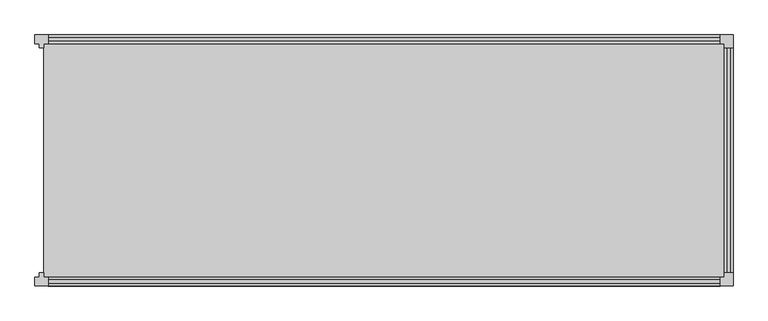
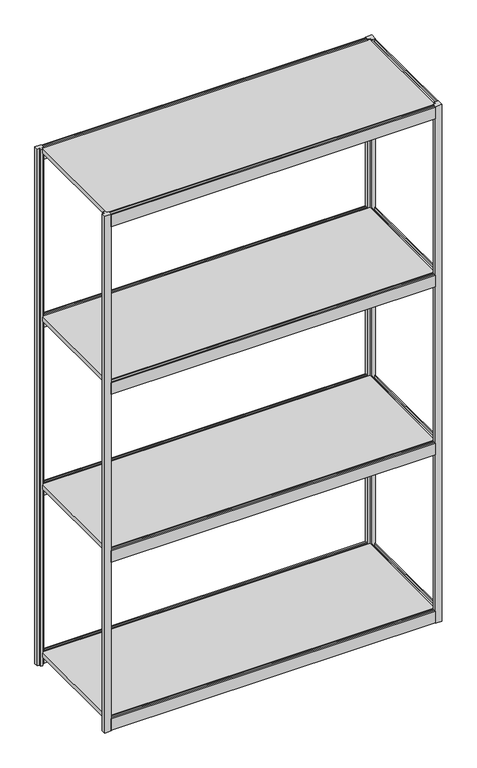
"""IFC4 building model written with IfcOpenShell, lengths in millimetres: furniture geometry, Loft_Wall-Shift-Shelving-Adder : SHIFT-4A-FH."""

import ifcopenshell
import ifcopenshell.guid

model = None  # the IFC model being written
_history = None  # IfcOwnerHistory: only IFC2X3 demands one
_inside = {}  # id of a spatial element -> (the spatial element, [elements in it])
_under = {}  # id of a project, library or spatial element -> (it, [spatial elements below it])
_declared = {}  # id of a project -> (the project, [libraries it declares])
_typed = {}  # id of a type object -> (the type object, [elements of that type])
_made_of = {}  # id of a material, layer set ... -> (it, [elements and type objects made of it])


def new_model(schema):
    """Start an empty IFC model of exactly this schema.

    Asked for "IFC4X3", IfcOpenShell would pick the latest addendum, in which some entities
    have other attributes; the version numbers below select the first issue.
    IFC2X3 requires an IfcOwnerHistory on every rooted entity: one is made here for all.
    """
    global model, _history
    if schema == "IFC4X3":
        model = ifcopenshell.file(schema_version=(4, 3, 0, 0))
    else:
        model = ifcopenshell.file(schema=schema)
    _inside.clear()
    _under.clear()
    _declared.clear()
    _typed.clear()
    _made_of.clear()
    _history = None
    if model.schema == "IFC2X3":
        org = make("IfcOrganization", Name="unknown")
        user = make(
            "IfcPersonAndOrganization",
            ThePerson=make("IfcPerson", FamilyName="unknown"),
            TheOrganization=org,
        )
        app = make(
            "IfcApplication",
            ApplicationDeveloper=org,
            Version="unknown",
            ApplicationFullName="unknown",
            ApplicationIdentifier="unknown",
        )
        _history = make(
            "IfcOwnerHistory",
            OwningUser=user,
            OwningApplication=app,
            ChangeAction="ADDED",
            CreationDate=0,
        )
    return model


def make(cls, **values):
    """One entity of the class cls with the attributes given. An attribute that is None is left unset."""
    return model.create_entity(
        cls, **{name: value for name, value in values.items() if value is not None}
    )


def rooted(cls, **values):
    """An entity with a GlobalId (a new one), such as an element, a storey or a relation."""
    return make(cls, GlobalId=ifcopenshell.guid.new(), OwnerHistory=_history, **values)


def si_unit(unit_type, name, prefix=None):
    """IfcSIUnit, for example si_unit("LENGTHUNIT", "METRE", prefix="MILLI")."""
    return make("IfcSIUnit", UnitType=unit_type, Prefix=prefix, Name=name)


def assignment(units):
    """IfcUnitAssignment: the units of a project."""
    return None if units is None else make("IfcUnitAssignment", Units=units)


def point(xyz):
    """IfcCartesianPoint."""
    return None if xyz is None else make("IfcCartesianPoint", Coordinates=xyz)


def direction(xyz):
    """IfcDirection."""
    return None if xyz is None else make("IfcDirection", DirectionRatios=xyz)


def frame(location, z_axis=None, x_axis=None):
    """IfcAxis2Placement3D, a coordinate frame: its origin and axes. An axis left out is left unset."""
    return make(
        "IfcAxis2Placement3D",
        Location=point(location),
        Axis=direction(z_axis),
        RefDirection=direction(x_axis),
    )


def origin():
    """The frame at (0, 0, 0) with its axes left unset."""
    return frame((0.0, 0.0, 0.0))


def origin_with_axes():
    """The frame at (0, 0, 0) with the z axis (0, 0, 1) and the x axis (1, 0, 0) written out."""
    return frame((0.0, 0.0, 0.0), z_axis=(0.0, 0.0, 1.0), x_axis=(1.0, 0.0, 0.0))


def place(relative_to, where):
    """IfcLocalPlacement: puts the frame where relative to a parent placement (None: the world)."""
    return make(
        "IfcLocalPlacement", PlacementRelTo=relative_to, RelativePlacement=where
    )


def context(
    kind, dimensions, precision=None, world=None, true_north=None, identifier=None
):
    """IfcGeometricRepresentationContext, for example the 3D "Model" context."""
    return make(
        "IfcGeometricRepresentationContext",
        ContextIdentifier=identifier,
        ContextType=kind,
        CoordinateSpaceDimension=dimensions,
        Precision=precision,
        WorldCoordinateSystem=world,
        TrueNorth=true_north,
    )


def project(units=None, contexts=None):
    """IfcProject with its units and contexts."""
    return rooted(
        "IfcProject",
        Name="project",
        RepresentationContexts=contexts,
        UnitsInContext=assignment(units),
    )


def spatial(cls, under=None, at=None, **own):
    """A site, building, storey or space (cls), placed at a placement, below another one or the project."""
    s = rooted(cls, ObjectPlacement=at, **own)
    if under is not None:
        _under.setdefault(under.id(), (under, []))[1].append(s)
    return s


def polyline(points):
    """IfcPolyline through the points."""
    return make("IfcPolyline", Points=[point(p) for p in points])


def outline(outer, holes=None, kind="AREA"):
    """IfcArbitraryClosedProfileDef: a profile drawn as a closed curve; with holes, ...WithVoids."""
    if holes is None:
        return make("IfcArbitraryClosedProfileDef", ProfileType=kind, OuterCurve=outer)
    return make(
        "IfcArbitraryProfileDefWithVoids",
        ProfileType=kind,
        OuterCurve=outer,
        InnerCurves=holes,
    )


def extrude(swept, where, along, depth):
    """IfcExtrudedAreaSolid: the profile swept, set in the frame where, extruded along a direction by depth."""
    return make(
        "IfcExtrudedAreaSolid",
        SweptArea=swept,
        Position=where,
        ExtrudedDirection=direction(along),
        Depth=depth,
    )


def shape(context_of_items, identifier, shape_type, items):
    """IfcShapeRepresentation: the items that make up one representation, for example the "Body"."""
    return make(
        "IfcShapeRepresentation",
        ContextOfItems=context_of_items,
        RepresentationIdentifier=identifier,
        RepresentationType=shape_type,
        Items=items,
    )


def source(mapping_origin, context_of_items, identifier, shape_type, items):
    """IfcRepresentationMap: a shape defined once, which mapped items show again and again."""
    return make(
        "IfcRepresentationMap",
        MappingOrigin=mapping_origin,
        MappedRepresentation=shape(context_of_items, identifier, shape_type, items),
    )


def transform(
    local_origin,
    x_axis=None,
    y_axis=None,
    z_axis=None,
    scale=None,
    scale2=None,
    scale3=None,
    uniform=True,
):
    """IfcCartesianTransformationOperator3D, or its non-uniform kind. x_axis, y_axis, z_axis: its Axis1, 2, 3."""
    if uniform:
        return make(
            "IfcCartesianTransformationOperator3D",
            Axis1=direction(x_axis),
            Axis2=direction(y_axis),
            LocalOrigin=point(local_origin),
            Scale=scale,
            Axis3=direction(z_axis),
        )
    return make(
        "IfcCartesianTransformationOperator3DnonUniform",
        Axis1=direction(x_axis),
        Axis2=direction(y_axis),
        LocalOrigin=point(local_origin),
        Scale=scale,
        Axis3=direction(z_axis),
        Scale2=scale2,
        Scale3=scale3,
    )


def mapped(mapping_source, mapping_target):
    """IfcMappedItem: shows the shape of a source again, moved by a transform."""
    return make(
        "IfcMappedItem", MappingSource=mapping_source, MappingTarget=mapping_target
    )


def made_of(thing, what):
    """Note that an element or type object is made of a material, layer set ...; save() writes the relation."""
    if what is not None:
        _made_of.setdefault(what.id(), (what, []))[1].append(thing)
    return thing


def element(
    cls,
    number,
    at=None,
    inside=None,
    cuts=None,
    type_object=None,
    material=None,
    context=None,
    identifier="Body",
    shape_type=None,
    held_by="IfcProductDefinitionShape",
    body=None,
    shapes=None,
    **own,
):
    """One element of the class cls, such as IfcWall. Its Tag is "e" and its number.

    at: its placement. inside: the storey or other place that contains it. cuts: it is an
    opening in that element (IfcRelVoidsElement). A single representation is given by context,
    identifier, shape_type and body (its items); several are given by shapes. held_by: the class
    of the entity that holds the representations. save() writes the other relations.
    """
    e = rooted(cls, Tag="e%d" % number, ObjectPlacement=at, **own)
    if body is not None:
        shapes = [shape(context, identifier, shape_type, body)]
    if shapes is not None:
        e.Representation = make(held_by, Representations=shapes)
    if inside is not None:
        _inside.setdefault(inside.id(), (inside, []))[1].append(e)
    if cuts is not None:
        rooted(
            "IfcRelVoidsElement", RelatingBuildingElement=cuts, RelatedOpeningElement=e
        )
    if type_object is not None:
        _typed.setdefault(type_object.id(), (type_object, []))[1].append(e)
    return made_of(e, material)


def aggregate(whole, parts):
    """IfcRelAggregates: a whole, such as a stair, and the parts it consists of."""
    return rooted("IfcRelAggregates", RelatingObject=whole, RelatedObjects=parts)


def save(model, path):
    """Write the relations noted so far, then the file.

    IfcRelAggregates (storeys below a building ...), IfcRelContainedInSpatialStructure (elements
    in a storey), IfcRelDefinesByType, IfcRelAssociatesMaterial and IfcRelDeclares: one each for
    every whole, place, type object, material and project.
    """
    for whole, parts in _under.values():
        aggregate(whole, parts)
    for where, things in _inside.values():
        rooted(
            "IfcRelContainedInSpatialStructure",
            RelatedElements=things,
            RelatingStructure=where,
        )
    for kind, things in _typed.values():
        rooted("IfcRelDefinesByType", RelatedObjects=things, RelatingType=kind)
    for what, things in _made_of.values():
        rooted("IfcRelAssociatesMaterial", RelatedObjects=things, RelatingMaterial=what)
    for by, libraries in _declared.values():
        rooted("IfcRelDeclares", RelatingContext=by, RelatedDefinitions=libraries)
    model.write(path)


def furniture_b5f793eb(model_context):
    return source(origin(), model_context, "Body", "SweptSolid", [
        extrude(outline(polyline([(1330.8965, 609.6), (1330.8965, 605.5868), (1323.2384, 605.5868), (1323.2384, 598.3732), (1330.8965, 598.3732), (1330.8965, 594.36), (1285.6845, 594.36), (1285.6845, 598.3732), (1293.3426, 598.3732), (1293.3426, 605.5868), (1285.6845, 605.5868), (1285.6845, 609.6), (1330.8965, 609.6)])), frame((0.0, -196.215, 0.0), z_axis=(0.0, 1.0, 0.0), x_axis=(0.0, 0.0, 1.0)), (0.0, 0.0, 1.0), 392.43),
        extrude(outline(polyline([(-203.835, 1285.6845), (-207.8482, 1285.6845), (-207.8482, 1293.3426), (-215.0618, 1293.3426), (-215.0618, 1285.6845), (-219.075, 1285.6845), (-219.075, 1330.8965), (-215.0618, 1330.8965), (-215.0618, 1323.2384), (-207.8482, 1323.2384), (-207.8482, 1330.8965), (-203.835, 1330.8965), (-203.835, 1285.6845)])), frame((-586.74, 0.0, 0.0), z_axis=(1.0, 0.0, 0.0), x_axis=(0.0, 1.0, 0.0)), (0.0, 0.0, 1.0), 1173.48),
        extrude(outline(polyline([(203.835, 1285.6845), (203.835, 1330.8965), (207.8482, 1330.8965), (207.8482, 1323.2384), (215.0618, 1323.2384), (215.0618, 1330.8965), (219.075, 1330.8965), (219.075, 1285.6845), (215.0618, 1285.6845), (215.0618, 1293.3426), (207.8482, 1293.3426), (207.8482, 1285.6845), (203.835, 1285.6845)])), frame((-586.74, 0.0, 0.0), z_axis=(1.0, 0.0, 0.0), x_axis=(0.0, 1.0, 0.0)), (0.0, 0.0, 1.0), 1173.48),
        extrude(outline(polyline([(594.36, 203.835), (594.36, -203.835), (-594.36, -203.835), (-594.36, 203.835), (594.36, 203.835)])), frame((0.0, 0.0, 1315.4631509), z_axis=(0.0, 0.0, 1.0), x_axis=(1.0, 0.0, 0.0)), (0.0, 0.0, 1.0), 15.4333491),
        extrude(outline(polyline([(689.1655, 609.6), (689.1655, 605.5868), (681.5074, 605.5868), (681.5074, 598.3732), (689.1655, 598.3732), (689.1655, 594.36), (643.9535, 594.36), (643.9535, 598.3732), (651.6116, 598.3732), (651.6116, 605.5868), (643.9535, 605.5868), (643.9535, 609.6), (689.1655, 609.6)])), frame((0.0, -196.215, 0.0), z_axis=(0.0, 1.0, 0.0), x_axis=(0.0, 0.0, 1.0)), (0.0, 0.0, 1.0), 392.43),
        extrude(outline(polyline([(-203.835, 643.9535), (-207.8482, 643.9535), (-207.8482, 651.6116), (-215.0618, 651.6116), (-215.0618, 643.9535), (-219.075, 643.9535), (-219.075, 689.1655), (-215.0618, 689.1655), (-215.0618, 681.5074), (-207.8482, 681.5074), (-207.8482, 689.1655), (-203.835, 689.1655), (-203.835, 643.9535)])), frame((-586.74, 0.0, 0.0), z_axis=(1.0, 0.0, 0.0), x_axis=(0.0, 1.0, 0.0)), (0.0, 0.0, 1.0), 1173.48),
        extrude(outline(polyline([(203.835, 643.9535), (203.835, 689.1655), (207.8482, 689.1655), (207.8482, 681.5074), (215.0618, 681.5074), (215.0618, 689.1655), (219.075, 689.1655), (219.075, 643.9535), (215.0618, 643.9535), (215.0618, 651.6116), (207.8482, 651.6116), (207.8482, 643.9535), (203.835, 643.9535)])), frame((-586.74, 0.0, 0.0), z_axis=(1.0, 0.0, 0.0), x_axis=(0.0, 1.0, 0.0)), (0.0, 0.0, 1.0), 1173.48),
        extrude(outline(polyline([(594.36, 203.835), (594.36, -203.835), (-594.36, -203.835), (-594.36, 203.835), (594.36, 203.835)])), frame((0.0, 0.0, 673.7321509), z_axis=(0.0, 0.0, 1.0), x_axis=(1.0, 0.0, 0.0)), (0.0, 0.0, 1.0), 15.4333491),
        extrude(outline(polyline([(1972.6275, 609.6), (1972.6275, 605.5868), (1964.9694, 605.5868), (1964.9694, 598.3732), (1972.6275, 598.3732), (1972.6275, 594.36), (1927.4155, 594.36), (1927.4155, 598.3732), (1935.0736, 598.3732), (1935.0736, 605.5868), (1927.4155, 605.5868), (1927.4155, 609.6), (1972.6275, 609.6)])), frame((0.0, -196.215, 0.0), z_axis=(0.0, 1.0, 0.0), x_axis=(0.0, 0.0, 1.0)), (0.0, 0.0, 1.0), 392.43),
        extrude(outline(polyline([(-203.835, 1927.4155), (-207.8482, 1927.4155), (-207.8482, 1935.0736), (-215.0618, 1935.0736), (-215.0618, 1927.4155), (-219.075, 1927.4155), (-219.075, 1972.6275), (-215.0618, 1972.6275), (-215.0618, 1964.9694), (-207.8482, 1964.9694), (-207.8482, 1972.6275), (-203.835, 1972.6275), (-203.835, 1927.4155)])), frame((-586.74, 0.0, 0.0), z_axis=(1.0, 0.0, 0.0), x_axis=(0.0, 1.0, 0.0)), (0.0, 0.0, 1.0), 1173.48),
        extrude(outline(polyline([(203.835, 1927.4155), (203.835, 1972.6275), (207.8482, 1972.6275), (207.8482, 1964.9694), (215.0618, 1964.9694), (215.0618, 1972.6275), (219.075, 1972.6275), (219.075, 1927.4155), (215.0618, 1927.4155), (215.0618, 1935.0736), (207.8482, 1935.0736), (207.8482, 1927.4155), (203.835, 1927.4155)])), frame((-586.74, 0.0, 0.0), z_axis=(1.0, 0.0, 0.0), x_axis=(0.0, 1.0, 0.0)), (0.0, 0.0, 1.0), 1173.48),
        extrude(outline(polyline([(594.36, 203.835), (594.36, -203.835), (-594.36, -203.835), (-594.36, 203.835), (594.36, 203.835)])), frame((0.0, 0.0, 1957.1941509), z_axis=(0.0, 0.0, 1.0), x_axis=(1.0, 0.0, 0.0)), (0.0, 0.0, 1.0), 15.4333491),
        extrude(outline(polyline([(47.4345, 609.6), (47.4345, 605.5868), (39.7764, 605.5868), (39.7764, 598.3732), (47.4345, 598.3732), (47.4345, 594.36), (2.2225, 594.36), (2.2225, 598.3732), (9.8806, 598.3732), (9.8806, 605.5868), (2.2225, 605.5868), (2.2225, 609.6), (47.4345, 609.6)])), frame((0.0, -196.215, 0.0), z_axis=(0.0, 1.0, 0.0), x_axis=(0.0, 0.0, 1.0)), (0.0, 0.0, 1.0), 392.43),
        extrude(outline(polyline([(-203.835, 2.2225), (-207.8482, 2.2225), (-207.8482, 9.8806), (-215.0618, 9.8806), (-215.0618, 2.2225), (-219.075, 2.2225), (-219.075, 47.4345), (-215.0618, 47.4345), (-215.0618, 39.7764), (-207.8482, 39.7764), (-207.8482, 47.4345), (-203.835, 47.4345), (-203.835, 2.2225)])), frame((-586.74, 0.0, 0.0), z_axis=(1.0, 0.0, 0.0), x_axis=(0.0, 1.0, 0.0)), (0.0, 0.0, 1.0), 1173.48),
        extrude(outline(polyline([(203.835, 2.2225), (203.835, 47.4345), (207.8482, 47.4345), (207.8482, 39.7764), (215.0618, 39.7764), (215.0618, 47.4345), (219.075, 47.4345), (219.075, 2.2225), (215.0618, 2.2225), (215.0618, 9.8806), (207.8482, 9.8806), (207.8482, 2.2225), (203.835, 2.2225)])), frame((-586.74, 0.0, 0.0), z_axis=(1.0, 0.0, 0.0), x_axis=(0.0, 1.0, 0.0)), (0.0, 0.0, 1.0), 1173.48),
        extrude(outline(polyline([(594.36, 203.835), (594.36, -203.835), (-594.36, -203.835), (-594.36, 203.835), (594.36, 203.835)])), frame((0.0, 0.0, 32.0011509), z_axis=(0.0, 0.0, 1.0), x_axis=(1.0, 0.0, 0.0)), (0.0, 0.0, 1.0), 15.4333491),
        extrude(outline(polyline([(-586.74, -203.835), (-586.74, -219.075), (-609.6, -219.075), (-609.6, -203.835), (-601.6625, -203.835), (-601.6625, -196.215), (-594.36, -196.215), (-594.36, -203.835), (-586.74, -203.835)])), origin_with_axes(), (0.0, 0.0, 1.0), 1974.85),
        extrude(outline(polyline([(586.74, -203.835), (594.36, -203.835), (594.36, -196.215), (609.6, -196.215), (609.6, -219.075), (586.74, -219.075), (586.74, -203.835)])), origin_with_axes(), (0.0, 0.0, 1.0), 1974.85),
        extrude(outline(polyline([(-586.74, 203.835), (-594.36, 203.835), (-594.36, 196.215), (-601.6625, 196.215), (-601.6625, 203.835), (-609.6, 203.835), (-609.6, 219.075), (-586.74, 219.075), (-586.74, 203.835)])), origin_with_axes(), (0.0, 0.0, 1.0), 1974.85),
        extrude(outline(polyline([(586.74, 203.835), (586.74, 219.075), (609.6, 219.075), (609.6, 196.215), (594.36, 196.215), (594.36, 203.835), (586.74, 203.835)])), origin_with_axes(), (0.0, 0.0, 1.0), 1974.85),
    ])


if __name__ == "__main__":
    model = new_model("IFC4")
    model_context = context("Model", 3, world=origin())
    ifc_project = project(units=[si_unit("LENGTHUNIT", "METRE", prefix="MILLI")], contexts=[model_context])
    site = spatial("IfcSite", under=ifc_project)
    building = spatial("IfcBuilding", under=site)
    placement = place(None, origin())
    furniture_shape = furniture_b5f793eb(model_context)
    element("IfcFurniture", 1, ObjectType="Loft_Wall-Shift-Shelving-Adder : SHIFT-4A-FH", at=placement, inside=building, context=model_context, shape_type="MappedRepresentation", body=[
        mapped(furniture_shape, transform((0.0, 0.0, 0.0), x_axis=(1.0, 0.0, 0.0), y_axis=(0.0, 1.0, 0.0), z_axis=(0.0, 0.0, 1.0))),
    ])
    save(model, "model.ifc")
